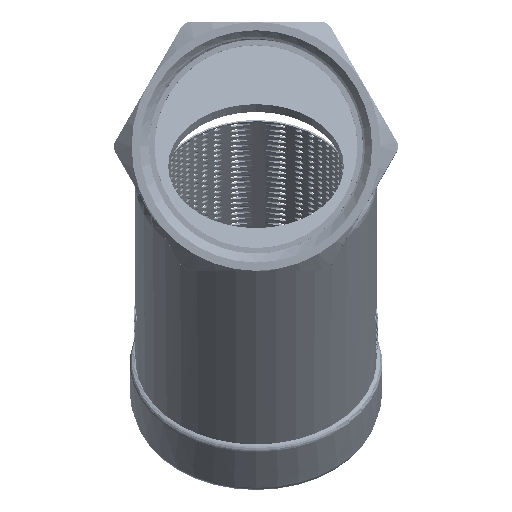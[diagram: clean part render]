
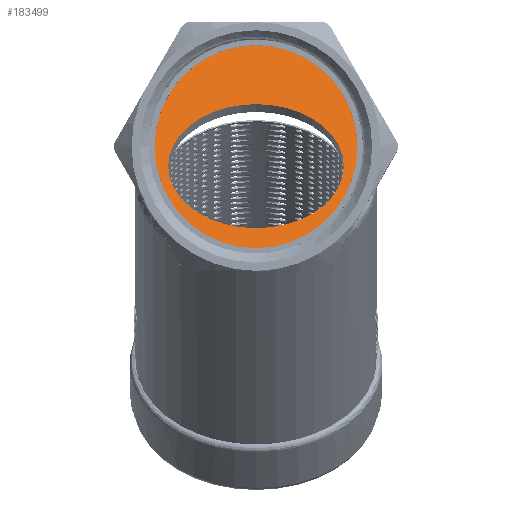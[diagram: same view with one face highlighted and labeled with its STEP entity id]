
A CAD part, top view. The second image highlights one B-rep face of the part: STEP entity #183499.
In plain terms, the highlighted planar face has unit normal (0, 0.707, 0.707).
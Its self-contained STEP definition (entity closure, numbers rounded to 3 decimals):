
#16384 = CIRCLE ( 'NONE', #147715, 24. ) ;
#45056 = VERTEX_POINT ( 'NONE', #107325 ) ;
#47003 = VERTEX_POINT ( 'NONE', #109479 ) ;
#61854 = CIRCLE ( 'NONE', #67162, 24. ) ;
#67162 = AXIS2_PLACEMENT_3D ( 'NONE', #126606, #126651, #126558 ) ;
#77410 = CARTESIAN_POINT ( 'NONE',  ( 0., -5.303, 20.897 ) ) ;
#77437 = DIRECTION ( 'NONE',  ( 0., -0.707, -0.707 ) ) ;
#77529 = DIRECTION ( 'NONE',  ( 0., 0.707, -0.707 ) ) ;
#97966 = EDGE_LOOP ( 'NONE', ( #277569, #277545 ) ) ;
#98332 = EDGE_LOOP ( 'NONE', ( #277562, #277565 ) ) ;
#107325 = CARTESIAN_POINT ( 'NONE',  ( 27.75, 0., 15.593 ) ) ;
#109479 = CARTESIAN_POINT ( 'NONE',  ( -27.75, 0., 15.593 ) ) ;
#126558 = DIRECTION ( 'NONE',  ( 0., 0.707, -0.707 ) ) ;
#126606 = CARTESIAN_POINT ( 'NONE',  ( 0., -5.303, 20.897 ) ) ;
#126651 = DIRECTION ( 'NONE',  ( 0., -0.707, -0.707 ) ) ;
#141109 = CARTESIAN_POINT ( 'NONE',  ( -27.75, 0., 15.593 ) ) ;
#141112 = CARTESIAN_POINT ( 'NONE',  ( 27.75, -55.5, 71.093 ) ) ;
#141116 = CARTESIAN_POINT ( 'NONE',  ( -27.75, -55.5, 71.093 ) ) ;
#141117 = CARTESIAN_POINT ( 'NONE',  ( 27.75, 0., 15.593 ) ) ;
#147715 = AXIS2_PLACEMENT_3D ( 'NONE', #77410, #77437, #77529 ) ;
#151185 =( BOUNDED_CURVE ( )  B_SPLINE_CURVE ( 3, ( #141109, #141116, #141112, #141117 ),
 .UNSPECIFIED., .F., .F. ) 
 B_SPLINE_CURVE_WITH_KNOTS ( ( 4, 4 ),
 ( 4.712, 7.854 ),
 .UNSPECIFIED. ) 
 CURVE ( )  GEOMETRIC_REPRESENTATION_ITEM ( )  RATIONAL_B_SPLINE_CURVE ( ( 1., 0.333, 0.333, 1. ) ) 
 REPRESENTATION_ITEM ( '' )  );
#151295 =( BOUNDED_CURVE ( )  B_SPLINE_CURVE ( 3, ( #152264, #152242, #152349, #152346 ),
 .UNSPECIFIED., .F., .F. ) 
 B_SPLINE_CURVE_WITH_KNOTS ( ( 4, 4 ),
 ( 1.571, 4.712 ),
 .UNSPECIFIED. ) 
 CURVE ( )  GEOMETRIC_REPRESENTATION_ITEM ( )  RATIONAL_B_SPLINE_CURVE ( ( 1., 0.333, 0.333, 1. ) ) 
 REPRESENTATION_ITEM ( '' )  );
#151430 = AXIS2_PLACEMENT_3D ( 'NONE', #214249, #214146, #214274 ) ;
#152242 = CARTESIAN_POINT ( 'NONE',  ( 27.75, 55.5, -39.907 ) ) ;
#152264 = CARTESIAN_POINT ( 'NONE',  ( 27.75, 0., 15.593 ) ) ;
#152346 = CARTESIAN_POINT ( 'NONE',  ( -27.75, 0., 15.593 ) ) ;
#152349 = CARTESIAN_POINT ( 'NONE',  ( -27.75, 55.5, -39.907 ) ) ;
#160861 = EDGE_CURVE ( 'NONE', #162861, #162901, #16384, .T. ) ;
#162861 = VERTEX_POINT ( 'NONE', #170207 ) ;
#162901 = VERTEX_POINT ( 'NONE', #170889 ) ;
#170207 = CARTESIAN_POINT ( 'NONE',  ( 0., 11.667, 3.926 ) ) ;
#170889 = CARTESIAN_POINT ( 'NONE',  ( 0., -22.274, 37.867 ) ) ;
#183499 = ADVANCED_FACE ( 'NONE', ( #204316, #204426 ), #214155, .F. ) ;
#196774 = EDGE_CURVE ( 'NONE', #162901, #162861, #61854, .T. ) ;
#197662 = EDGE_CURVE ( 'NONE', #47003, #45056, #151185, .T. ) ;
#198120 = EDGE_CURVE ( 'NONE', #45056, #47003, #151295, .T. ) ;
#204316 = FACE_BOUND ( 'NONE', #98332, .T. ) ;
#204426 = FACE_OUTER_BOUND ( 'NONE', #97966, .T. ) ;
#214146 = DIRECTION ( 'NONE',  ( 0., -0.707, -0.707 ) ) ;
#214155 = PLANE ( 'NONE',  #151430 ) ;
#214249 = CARTESIAN_POINT ( 'NONE',  ( 0., 7.797, 7.797 ) ) ;
#214274 = DIRECTION ( 'NONE',  ( 0., 0.707, -0.707 ) ) ;
#277545 = ORIENTED_EDGE ( 'NONE', *, *, #197662, .T. ) ;
#277562 = ORIENTED_EDGE ( 'NONE', *, *, #160861, .T. ) ;
#277565 = ORIENTED_EDGE ( 'NONE', *, *, #196774, .T. ) ;
#277569 = ORIENTED_EDGE ( 'NONE', *, *, #198120, .T. ) ;
